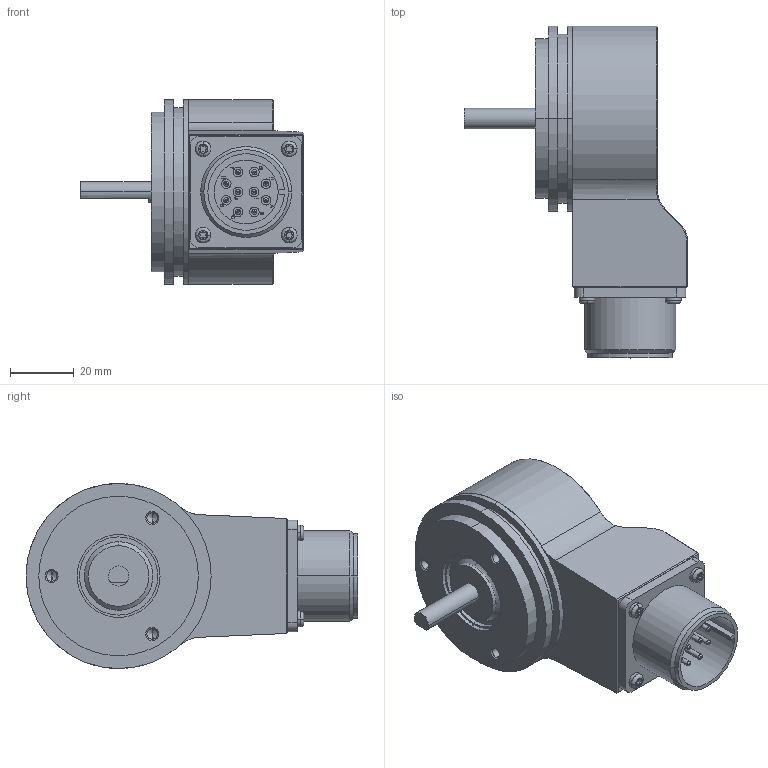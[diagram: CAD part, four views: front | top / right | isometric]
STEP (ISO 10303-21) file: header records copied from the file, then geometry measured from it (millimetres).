
FILE_DESCRIPTION (( 'STEP AP203' ), '1' );
FILE_NAME ('K58I.OXX.XXXXX.XS1S51B.6XRCJ.step', '2025-12-08T15:23:47', ( '' ), ( '' ), 'SwSTEP 2.0', 'SolidWorks 2021', '' );
FILE_SCHEMA (( 'CONFIG_CONTROL_DESIGN' ));
Length unit declared in the file: millimetre
Products named in the file (1): K58I.OXX.XXXXX.XS1S51B.6XRCJ
Bounding box: 69.92 x 104 x 58 mm (x, y, z)
Volume: 155263.8 mm3; surface area: 38222.3 mm2
Topology: 6 solids, 6 shells, 432 faces, 1035 edges, 665 vertices
Faces by surface type: cylinder 169, plane 162, bspline 55, torus 24, cone 22
Entity records: 16618 total; most frequent: CARTESIAN_POINT 6585, ORIENTED_EDGE 2058, DIRECTION 2046, EDGE_CURVE 1029, AXIS2_PLACEMENT_3D 771, VERTEX_POINT 665, VECTOR 504, LINE 504
